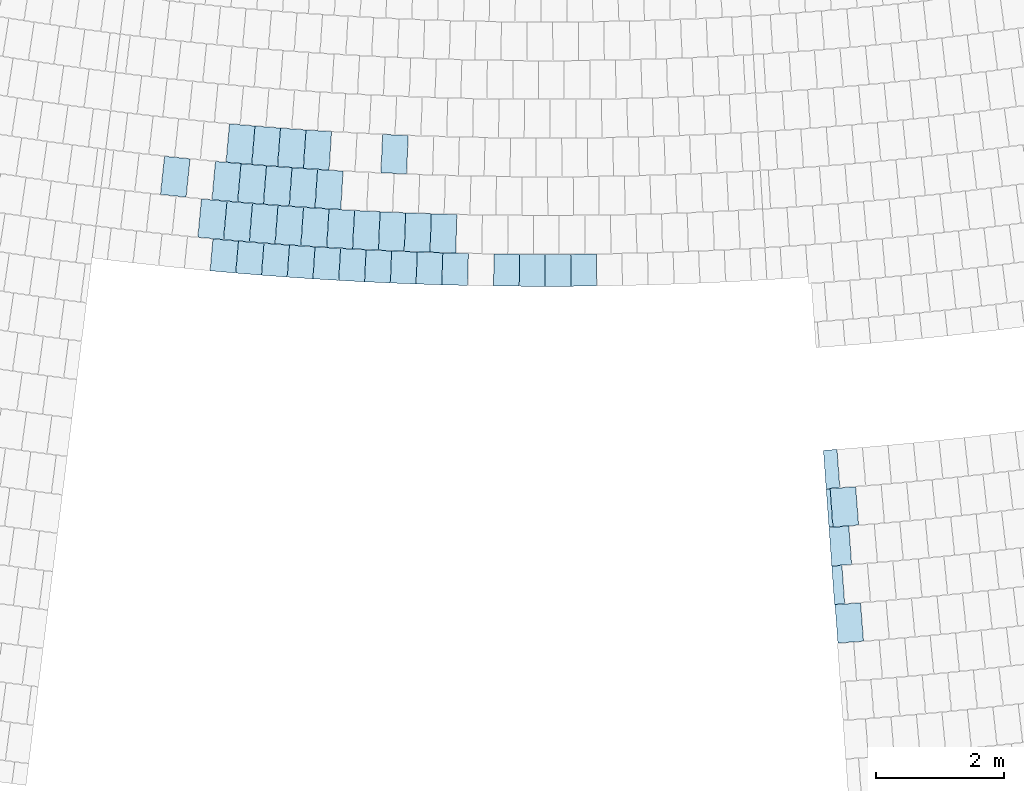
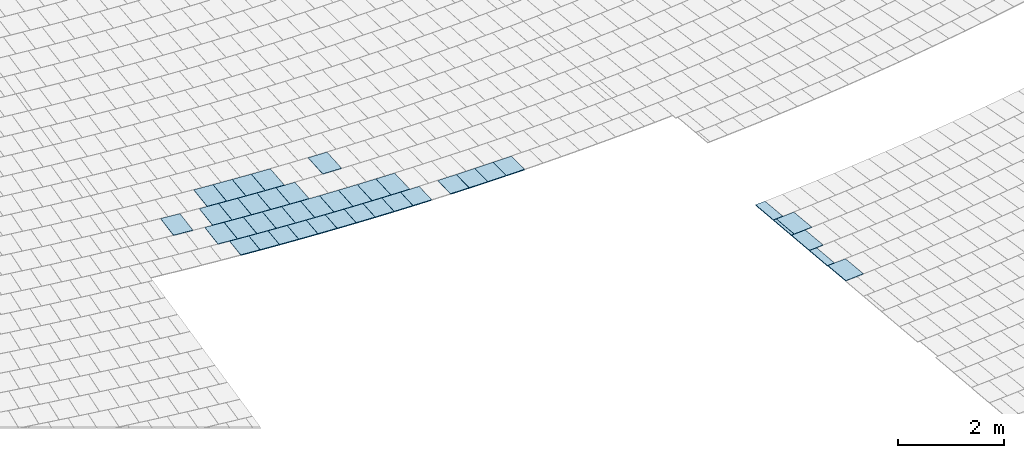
# One storey, part 37 of 438: 41 slabs.
"""IFC2X3 building model written with IfcOpenShell, lengths in millimetres."""

import ifcopenshell
import ifcopenshell.guid

model = None  # the IFC model being written
_history = None  # IfcOwnerHistory: only IFC2X3 demands one
_inside = {}  # id of a spatial element -> (the spatial element, [elements in it])
_under = {}  # id of a project, library or spatial element -> (it, [spatial elements below it])
_declared = {}  # id of a project -> (the project, [libraries it declares])
_typed = {}  # id of a type object -> (the type object, [elements of that type])
_made_of = {}  # id of a material, layer set ... -> (it, [elements and type objects made of it])


def new_model(schema):
    """Start an empty IFC model of exactly this schema.

    Asked for "IFC4X3", IfcOpenShell would pick the latest addendum, in which some entities
    have other attributes; the version numbers below select the first issue.
    IFC2X3 requires an IfcOwnerHistory on every rooted entity: one is made here for all.
    """
    global model, _history
    if schema == "IFC4X3":
        model = ifcopenshell.file(schema_version=(4, 3, 0, 0))
    else:
        model = ifcopenshell.file(schema=schema)
    _inside.clear()
    _under.clear()
    _declared.clear()
    _typed.clear()
    _made_of.clear()
    _history = None
    if model.schema == "IFC2X3":
        org = make("IfcOrganization", Name="unknown")
        user = make(
            "IfcPersonAndOrganization",
            ThePerson=make("IfcPerson", FamilyName="unknown"),
            TheOrganization=org,
        )
        app = make(
            "IfcApplication",
            ApplicationDeveloper=org,
            Version="unknown",
            ApplicationFullName="unknown",
            ApplicationIdentifier="unknown",
        )
        _history = make(
            "IfcOwnerHistory",
            OwningUser=user,
            OwningApplication=app,
            ChangeAction="ADDED",
            CreationDate=0,
        )
    return model


def make(cls, **values):
    """One entity of the class cls with the attributes given. An attribute that is None is left unset."""
    return model.create_entity(
        cls, **{name: value for name, value in values.items() if value is not None}
    )


def entity(cls, *values):
    """Any entity or typed value of the class cls, its attributes in the order of the schema. None: left unset."""
    e = model.create_entity(cls)
    for i, value in enumerate(values):
        if value is not None:
            e[i] = value
    return e


def rooted(cls, **values):
    """An entity with a GlobalId (a new one), such as an element, a storey or a relation."""
    return make(cls, GlobalId=ifcopenshell.guid.new(), OwnerHistory=_history, **values)


def si_unit(unit_type, name, prefix=None):
    """IfcSIUnit, for example si_unit("LENGTHUNIT", "METRE", prefix="MILLI")."""
    return make("IfcSIUnit", UnitType=unit_type, Prefix=prefix, Name=name)


def converted_unit(unit_type, name, factor, base, dimensions=None, offset=None):
    """IfcConversionBasedUnit, such as the inch: factor (a typed value) times the base unit."""
    return make(
        "IfcConversionBasedUnit"
        if offset is None
        else "IfcConversionBasedUnitWithOffset",
        ConversionOffset=offset,
        Dimensions=None
        if dimensions is None
        else entity("IfcDimensionalExponents", *dimensions),
        UnitType=unit_type,
        Name=name,
        ConversionFactor=make(
            "IfcMeasureWithUnit", ValueComponent=factor, UnitComponent=base
        ),
    )


def derived_unit(unit_type, elements):
    """IfcDerivedUnit: a product of units, each with its exponent."""
    return make(
        "IfcDerivedUnit",
        Elements=[
            make("IfcDerivedUnitElement", Unit=unit, Exponent=power)
            for unit, power in elements
        ],
        UnitType=unit_type,
    )


def assignment(units):
    """IfcUnitAssignment: the units of a project."""
    return None if units is None else make("IfcUnitAssignment", Units=units)


def point(xyz):
    """IfcCartesianPoint."""
    return None if xyz is None else make("IfcCartesianPoint", Coordinates=xyz)


def direction(xyz):
    """IfcDirection."""
    return None if xyz is None else make("IfcDirection", DirectionRatios=xyz)


def frame(location, z_axis=None, x_axis=None):
    """IfcAxis2Placement3D, a coordinate frame: its origin and axes. An axis left out is left unset."""
    return make(
        "IfcAxis2Placement3D",
        Location=point(location),
        Axis=direction(z_axis),
        RefDirection=direction(x_axis),
    )


def origin():
    """The frame at (0, 0, 0) with its axes left unset."""
    return frame((0.0, 0.0, 0.0))


def place(relative_to, where):
    """IfcLocalPlacement: puts the frame where relative to a parent placement (None: the world)."""
    return make(
        "IfcLocalPlacement", PlacementRelTo=relative_to, RelativePlacement=where
    )


def context(
    kind, dimensions, precision=None, world=None, true_north=None, identifier=None
):
    """IfcGeometricRepresentationContext, for example the 3D "Model" context."""
    return make(
        "IfcGeometricRepresentationContext",
        ContextIdentifier=identifier,
        ContextType=kind,
        CoordinateSpaceDimension=dimensions,
        Precision=precision,
        WorldCoordinateSystem=world,
        TrueNorth=true_north,
    )


def subcontext(parent, identifier, kind, view, scale=None):
    """IfcGeometricRepresentationSubContext, for example "Body" below "Model"."""
    return make(
        "IfcGeometricRepresentationSubContext",
        ContextIdentifier=identifier,
        ContextType=kind,
        ParentContext=parent,
        TargetScale=scale,
        TargetView=view,
    )


def project(units=None, contexts=None):
    """IfcProject with its units and contexts."""
    return rooted(
        "IfcProject",
        Name="project",
        RepresentationContexts=contexts,
        UnitsInContext=assignment(units),
    )


def spatial(cls, under=None, at=None, **own):
    """A site, building, storey or space (cls), placed at a placement, below another one or the project."""
    s = rooted(cls, ObjectPlacement=at, **own)
    if under is not None:
        _under.setdefault(under.id(), (under, []))[1].append(s)
    return s


def polyline(points):
    """IfcPolyline through the points."""
    return make("IfcPolyline", Points=[point(p) for p in points])


def outline(outer, holes=None, kind="AREA"):
    """IfcArbitraryClosedProfileDef: a profile drawn as a closed curve; with holes, ...WithVoids."""
    if holes is None:
        return make("IfcArbitraryClosedProfileDef", ProfileType=kind, OuterCurve=outer)
    return make(
        "IfcArbitraryProfileDefWithVoids",
        ProfileType=kind,
        OuterCurve=outer,
        InnerCurves=holes,
    )


def extrude(swept, where, along, depth):
    """IfcExtrudedAreaSolid: the profile swept, set in the frame where, extruded along a direction by depth."""
    return make(
        "IfcExtrudedAreaSolid",
        SweptArea=swept,
        Position=where,
        ExtrudedDirection=direction(along),
        Depth=depth,
    )


def shape(context_of_items, identifier, shape_type, items):
    """IfcShapeRepresentation: the items that make up one representation, for example the "Body"."""
    return make(
        "IfcShapeRepresentation",
        ContextOfItems=context_of_items,
        RepresentationIdentifier=identifier,
        RepresentationType=shape_type,
        Items=items,
    )


def material(Name=None, Category=None):
    """IfcMaterial."""
    return make("IfcMaterial", Name=Name, Category=Category)


def layer(
    of_material, thickness, ventilated=None, Name=None, Category=None, Priority=None
):
    """IfcMaterialLayer: one layer of a wall or slab, of a material (None: an air gap)."""
    return make(
        "IfcMaterialLayer",
        Material=of_material,
        LayerThickness=thickness,
        IsVentilated=ventilated,
        Name=Name,
        Category=Category,
        Priority=Priority,
    )


def layer_set(layers, Name=None):
    """IfcMaterialLayerSet."""
    return make("IfcMaterialLayerSet", MaterialLayers=layers, LayerSetName=Name)


def layer_usage(for_layer_set, set_direction, sense, offset, extent=None):
    """IfcMaterialLayerSetUsage: how a layer set lies in its element."""
    return make(
        "IfcMaterialLayerSetUsage",
        ForLayerSet=for_layer_set,
        LayerSetDirection=set_direction,
        DirectionSense=sense,
        OffsetFromReferenceLine=offset,
        ReferenceExtent=extent,
    )


def made_of(thing, what):
    """Note that an element or type object is made of a material, layer set ...; save() writes the relation."""
    if what is not None:
        _made_of.setdefault(what.id(), (what, []))[1].append(thing)
    return thing


def type_object(cls, material=None, **own):
    """A type object (cls), such as IfcWallType, which elements share."""
    return made_of(rooted(cls, **own), material)


def element(
    cls,
    number,
    at=None,
    inside=None,
    cuts=None,
    type_object=None,
    material=None,
    context=None,
    identifier="Body",
    shape_type=None,
    held_by="IfcProductDefinitionShape",
    body=None,
    shapes=None,
    **own,
):
    """One element of the class cls, such as IfcWall. Its Tag is "e" and its number.

    at: its placement. inside: the storey or other place that contains it. cuts: it is an
    opening in that element (IfcRelVoidsElement). A single representation is given by context,
    identifier, shape_type and body (its items); several are given by shapes. held_by: the class
    of the entity that holds the representations. save() writes the other relations.
    """
    e = rooted(cls, Tag="e%d" % number, ObjectPlacement=at, **own)
    if body is not None:
        shapes = [shape(context, identifier, shape_type, body)]
    if shapes is not None:
        e.Representation = make(held_by, Representations=shapes)
    if inside is not None:
        _inside.setdefault(inside.id(), (inside, []))[1].append(e)
    if cuts is not None:
        rooted(
            "IfcRelVoidsElement", RelatingBuildingElement=cuts, RelatedOpeningElement=e
        )
    if type_object is not None:
        _typed.setdefault(type_object.id(), (type_object, []))[1].append(e)
    return made_of(e, material)


def aggregate(whole, parts):
    """IfcRelAggregates: a whole, such as a stair, and the parts it consists of."""
    return rooted("IfcRelAggregates", RelatingObject=whole, RelatedObjects=parts)


def save(model, path):
    """Write the relations noted so far, then the file.

    IfcRelAggregates (storeys below a building ...), IfcRelContainedInSpatialStructure (elements
    in a storey), IfcRelDefinesByType, IfcRelAssociatesMaterial and IfcRelDeclares: one each for
    every whole, place, type object, material and project.
    """
    for whole, parts in _under.values():
        aggregate(whole, parts)
    for where, things in _inside.values():
        rooted(
            "IfcRelContainedInSpatialStructure",
            RelatedElements=things,
            RelatingStructure=where,
        )
    for kind, things in _typed.values():
        rooted("IfcRelDefinesByType", RelatedObjects=things, RelatingType=kind)
    for what, things in _made_of.values():
        rooted("IfcRelAssociatesMaterial", RelatedObjects=things, RelatingMaterial=what)
    for by, libraries in _declared.values():
        rooted("IfcRelDeclares", RelatingContext=by, RelatedDefinitions=libraries)
    model.write(path)


model = new_model("IFC2X3")

# Units and contexts
model_context = context("Model", 3, precision=0.01, world=origin(), true_north=direction((6.123031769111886e-17, 1.0)))
body_context = subcontext(model_context, "Body", "Model", "MODEL_VIEW")
ifc_project = project(units=[si_unit("LENGTHUNIT", "METRE", prefix="MILLI"), si_unit("AREAUNIT", "SQUARE_METRE"), si_unit("VOLUMEUNIT", "CUBIC_METRE"), converted_unit("PLANEANGLEUNIT", "DEGREE", entity("IfcRatioMeasure", 0.017453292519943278), si_unit("PLANEANGLEUNIT", "RADIAN"), dimensions=[0, 0, 0, 0, 0, 0, 0]), si_unit("MASSUNIT", "GRAM", prefix="KILO"), derived_unit("MASSDENSITYUNIT", [(si_unit("MASSUNIT", "GRAM", prefix="KILO"), 1), (si_unit("LENGTHUNIT", "METRE"), -3)]), derived_unit("MOMENTOFINERTIAUNIT", [(si_unit("LENGTHUNIT", "METRE"), 4)]), si_unit("TIMEUNIT", "SECOND"), si_unit("FREQUENCYUNIT", "HERTZ"), si_unit("THERMODYNAMICTEMPERATUREUNIT", "DEGREE_CELSIUS"), derived_unit("THERMALTRANSMITTANCEUNIT", [(si_unit("MASSUNIT", "GRAM", prefix="KILO"), 1), (si_unit("THERMODYNAMICTEMPERATUREUNIT", "KELVIN"), -1), (si_unit("TIMEUNIT", "SECOND"), -3)]), derived_unit("THERMALCONDUCTANCEUNIT", [(si_unit("MASSUNIT", "GRAM", prefix="KILO"), 1), (si_unit("LENGTHUNIT", "METRE"), 1), (si_unit("THERMODYNAMICTEMPERATUREUNIT", "KELVIN"), -1), (si_unit("TIMEUNIT", "SECOND"), -3)]), derived_unit("VOLUMETRICFLOWRATEUNIT", [(si_unit("LENGTHUNIT", "METRE"), 3), (si_unit("TIMEUNIT", "SECOND"), -1)]), derived_unit("MASSFLOWRATEUNIT", [(si_unit("MASSUNIT", "GRAM", prefix="KILO"), 1), (si_unit("TIMEUNIT", "SECOND"), -1)]), derived_unit("ROTATIONALFREQUENCYUNIT", [(si_unit("TIMEUNIT", "SECOND"), -1)]), si_unit("ELECTRICCURRENTUNIT", "AMPERE"), si_unit("ELECTRICVOLTAGEUNIT", "VOLT"), si_unit("POWERUNIT", "WATT"), converted_unit("FORCEUNIT", "KIP", entity("IfcRatioMeasure", 2.088543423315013e-05), si_unit("FORCEUNIT", "NEWTON"), dimensions=[1, 1, -2, 0, 0, 0, 0]), si_unit("ILLUMINANCEUNIT", "LUX"), si_unit("LUMINOUSFLUXUNIT", "LUMEN"), si_unit("LUMINOUSINTENSITYUNIT", "CANDELA"), derived_unit("USERDEFINED", [(si_unit("MASSUNIT", "GRAM", prefix="KILO"), -1), (si_unit("LENGTHUNIT", "METRE"), -2), (si_unit("TIMEUNIT", "SECOND"), 3), (si_unit("LUMINOUSFLUXUNIT", "LUMEN"), 1)]), derived_unit("USERDEFINED", [(si_unit("MASSUNIT", "GRAM", prefix="KILO"), 1), (si_unit("LENGTHUNIT", "METRE"), 3), (si_unit("TIMEUNIT", "SECOND"), -3), (si_unit("ELECTRICCURRENTUNIT", "AMPERE"), -2)]), derived_unit("USERDEFINED", [(si_unit("LENGTHUNIT", "METRE"), 2), (si_unit("TIMEUNIT", "SECOND"), -2)]), derived_unit("SOUNDPOWERUNIT", [(si_unit("MASSUNIT", "GRAM", prefix="KILO"), 1), (si_unit("LENGTHUNIT", "METRE"), 2), (si_unit("TIMEUNIT", "SECOND"), -3)]), derived_unit("SOUNDPRESSUREUNIT", [(si_unit("MASSUNIT", "GRAM", prefix="KILO"), 1), (si_unit("LENGTHUNIT", "METRE"), -1), (si_unit("TIMEUNIT", "SECOND"), -2)]), derived_unit("LINEARVELOCITYUNIT", [(si_unit("LENGTHUNIT", "METRE"), 1), (si_unit("TIMEUNIT", "SECOND"), -1)]), si_unit("PRESSUREUNIT", "PASCAL"), derived_unit("USERDEFINED", [(si_unit("LENGTHUNIT", "METRE"), -2), (si_unit("MASSUNIT", "GRAM", prefix="KILO"), 1), (si_unit("TIMEUNIT", "SECOND"), -2)]), derived_unit("LINEARFORCEUNIT", [(si_unit("MASSUNIT", "GRAM", prefix="KILO"), 1), (si_unit("LENGTHUNIT", "METRE"), 1), (si_unit("TIMEUNIT", "SECOND"), -2), (si_unit("LENGTHUNIT", "METRE"), -1)]), derived_unit("PLANARFORCEUNIT", [(si_unit("MASSUNIT", "GRAM", prefix="KILO"), 1), (si_unit("LENGTHUNIT", "METRE"), 1), (si_unit("TIMEUNIT", "SECOND"), -2), (si_unit("LENGTHUNIT", "METRE"), -2)]), derived_unit("SPECIFICHEATCAPACITYUNIT", [(si_unit("LENGTHUNIT", "METRE"), 2), (si_unit("TIMEUNIT", "SECOND"), -2), (si_unit("THERMODYNAMICTEMPERATUREUNIT", "KELVIN"), -1)]), derived_unit("VAPORPERMEABILITYUNIT", [(si_unit("TIMEUNIT", "SECOND"), 1), (si_unit("LENGTHUNIT", "METRE"), -1)]), derived_unit("DYNAMICVISCOSITYUNIT", [(si_unit("MASSUNIT", "GRAM", prefix="KILO"), 1), (si_unit("LENGTHUNIT", "METRE"), -1), (si_unit("TIMEUNIT", "SECOND"), -1)]), derived_unit("THERMALEXPANSIONCOEFFICIENTUNIT", [(si_unit("THERMODYNAMICTEMPERATUREUNIT", "KELVIN"), -1)])], contexts=[model_context])

# Site, building, storey
site_placement = place(None, frame((0.0, 0.0, 0.0), z_axis=(0.0, 0.0, 1.0), x_axis=(0.8191520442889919, 0.5735764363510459, 0.0)))
site = spatial("IfcSite", under=ifc_project, at=site_placement, Name="Default", CompositionType="ELEMENT")
building_placement = place(site_placement, origin())
building = spatial("IfcBuilding", under=site, at=building_placement, CompositionType="ELEMENT")
storey_placement = place(building_placement, origin())
storey = spatial("IfcBuildingStorey", under=building, at=storey_placement, Name="PLAN", CompositionType="ELEMENT", Elevation=0.0)

# Slabs
ifc_material = material(Name="Paint-01")
ifc_layer = layer(ifc_material, 20.00000000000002)
ifc_layer_set = layer_set([ifc_layer], Name="Floor:Slab-179:1000")
ifc_layer_usage = layer_usage(ifc_layer_set, "AXIS3", "POSITIVE", 0.0)
slab_type = type_object("IfcSlabType", Name="Floor:Slab-179:1000", PredefinedType="FLOOR", material=ifc_layer_set)
slab_1_placement = place(storey_placement, origin())
element("IfcSlab", 1, at=slab_1_placement, inside=storey, type_object=slab_type, material=ifc_layer_usage, Name="Floor:Slab-179:1000", ObjectType="Floor:Slab-179:1000", PredefinedType="FLOOR", context=body_context, shape_type="SweptSolid", body=[
    extrude(outline(polyline([(-300.0000010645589, -200.000002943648), (299.99999893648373, -200.000002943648), (300.00000106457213, 200.00000294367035), (-299.9999989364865, 200.00000294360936), (-300.0000010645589, -200.000002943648)])), frame((-71296.15051540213, -120277.94097006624, 20.0), z_axis=(0.0, 0.0, -1.0), x_axis=(-0.509357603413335, -0.8605549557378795, 0.0)), (0.0, 0.0, 1.0), 20.00000000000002),
])
slab_2_placement = place(storey_placement, origin())
element("IfcSlab", 2, at=slab_2_placement, inside=storey, type_object=slab_type, material=ifc_layer_usage, Name="Floor:Slab-179:1000", ObjectType="Floor:Slab-179:1000", PredefinedType="FLOOR", context=body_context, shape_type="SweptSolid", body=[
    extrude(outline(polyline([(-300.0, -200.00000294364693), (299.9999976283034, -200.000002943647), (300.0, 200.00000294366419), (-299.9999976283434, 200.00000294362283), (-300.0, -200.00000294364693)])), frame((-74297.9948022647, -112940.30427513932, 520.0), z_axis=(0.0, 0.0, -1.0), x_axis=(-0.6026229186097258, -0.7980260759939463, 0.0)), (0.0, 0.0, 1.0), 20.000000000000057),
])
slab_3_placement = place(storey_placement, origin())
element("IfcSlab", 3, at=slab_3_placement, inside=storey, type_object=slab_type, material=ifc_layer_usage, Name="Floor:Slab-179:1000", ObjectType="Floor:Slab-179:1000", PredefinedType="FLOOR", context=body_context, shape_type="SweptSolid", body=[
    extrude(outline(polyline([(-250.0, -200.00000294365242), (249.99999762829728, -200.0000029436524), (250.0, 200.0000029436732), (-249.99999762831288, 200.0000029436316), (-250.0, -200.00000294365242)])), frame((-74470.19479156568, -113505.28114272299, 520.0), z_axis=(0.0, 0.0, -1.0), x_axis=(-0.599773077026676, -0.800170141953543, 0.0)), (0.0, 0.0, 1.0), 20.000000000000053),
])
slab_4_placement = place(storey_placement, origin())
element("IfcSlab", 4, at=slab_4_placement, inside=storey, type_object=slab_type, material=ifc_layer_usage, Name="Floor:Slab-179:1000", ObjectType="Floor:Slab-179:1000", PredefinedType="FLOOR", context=body_context, shape_type="SweptSolid", body=[
    extrude(outline(polyline([(-300.0, -200.00000294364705), (299.99999762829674, -200.00000294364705), (300.0, 200.00000294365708), (-299.99999762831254, 200.0000029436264), (-300.0, -200.00000294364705)])), frame((-73892.33232357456, -111728.51901425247, 520.0), z_axis=(0.0, 0.0, -1.0), x_axis=(-0.6084868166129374, -0.7935639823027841, 0.0)), (0.0, 0.0, 1.0), 20.000000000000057),
])
slab_5_placement = place(storey_placement, origin())
element("IfcSlab", 5, at=slab_5_placement, inside=storey, type_object=slab_type, material=ifc_layer_usage, Name="Floor:Slab-179:1000", ObjectType="Floor:Slab-179:1000", PredefinedType="FLOOR", context=body_context, shape_type="SweptSolid", body=[
    extrude(outline(polyline([(-300.0, -200.0000029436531), (299.9999976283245, -200.0000029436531), (300.0, 200.00000294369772), (-299.9999976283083, 200.00000294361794), (-300.0, -200.0000029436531)])), frame((-74841.70731393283, -110983.93482851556, 520.0), z_axis=(0.0, 0.0, -1.0), x_axis=(-0.6256949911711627, -0.7800678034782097, 0.0)), (0.0, 0.0, 1.0), 20.000000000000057),
])
slab_6_placement = place(storey_placement, origin())
element("IfcSlab", 6, at=slab_6_placement, inside=storey, type_object=slab_type, material=ifc_layer_usage, Name="Floor:Slab-179:1000", ObjectType="Floor:Slab-179:1000", PredefinedType="FLOOR", context=body_context, shape_type="SweptSolid", body=[
    extrude(outline(polyline([(-300.0, -200.0000029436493), (299.99999762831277, -200.0000029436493), (300.0, 200.000002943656), (-299.9999976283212, 200.00000294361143), (-300.0, -200.0000029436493)])), frame((-75154.51903661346, -110731.14824908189, 520.0), z_axis=(0.0, 0.0, -1.0), x_axis=(-0.6313649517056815, -0.7754858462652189, 0.0)), (0.0, 0.0, 1.0), 19.999999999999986),
])
slab_7_placement = place(storey_placement, origin())
element("IfcSlab", 7, at=slab_7_placement, inside=storey, type_object=slab_type, material=ifc_layer_usage, Name="Floor:Slab-179:1000", ObjectType="Floor:Slab-179:1000", PredefinedType="FLOOR", context=body_context, shape_type="SweptSolid", body=[
    extrude(outline(polyline([(-300.0, -200.00000294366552), (299.9999976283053, -200.00000294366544), (300.0, 200.00000294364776), (-299.9999976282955, 200.00000294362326), (-300.0, -200.00000294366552)])), frame((-75774.57268379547, -110218.76773324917, 520.0), z_axis=(0.0, 0.0, -1.0), x_axis=(-0.6426039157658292, -0.7661985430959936, 0.0)), (0.0, 0.0, 1.0), 19.99999999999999),
])
slab_8_placement = place(storey_placement, origin())
element("IfcSlab", 8, at=slab_8_placement, inside=storey, type_object=slab_type, material=ifc_layer_usage, Name="Floor:Slab-179:1000", ObjectType="Floor:Slab-179:1000", PredefinedType="FLOOR", context=body_context, shape_type="SweptSolid", body=[
    extrude(outline(polyline([(-300.0, -200.00000294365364), (299.9999976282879, -200.00000294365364), (300.0, 200.00000294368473), (-299.99999762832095, 200.00000294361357), (-300.0, -200.00000294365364)])), frame((-75465.47966833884, -110476.08803245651, 520.0), z_axis=(0.0, 0.0, -1.0), x_axis=(-0.637001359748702, -0.7708626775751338, 0.0)), (0.0, 0.0, 1.0), 19.99999999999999),
])
slab_9_placement = place(storey_placement, origin())
element("IfcSlab", 9, at=slab_9_placement, inside=storey, type_object=slab_type, material=ifc_layer_usage, Name="Floor:Slab-179:1000", ObjectType="Floor:Slab-179:1000", PredefinedType="FLOOR", context=body_context, shape_type="SweptSolid", body=[
    extrude(outline(polyline([(-300.0, -200.00000294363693), (299.99999762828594, -200.00000294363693), (300.0, 200.0000029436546), (-299.9999976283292, 200.0000029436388), (-300.0, -200.00000294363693)])), frame((-75673.34043567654, -111088.54287768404, 520.0), z_axis=(0.0, 0.0, -1.0), x_axis=(-0.6338184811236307, -0.7734818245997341, 0.0)), (0.0, 0.0, 1.0), 20.000000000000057),
])
slab_10_placement = place(storey_placement, origin())
element("IfcSlab", 10, at=slab_10_placement, inside=storey, type_object=slab_type, material=ifc_layer_usage, Name="Floor:Slab-179:1000", ObjectType="Floor:Slab-179:1000", PredefinedType="FLOOR", context=body_context, shape_type="SweptSolid", body=[
    extrude(outline(polyline([(-300.0, -200.00000294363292), (299.9999976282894, -200.0000029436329), (300.0, 200.00000294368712), (-299.99999762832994, 200.00000294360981), (-300.0, -200.00000294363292)])), frame((-75047.55715957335, -111593.83412720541, 520.0), z_axis=(0.0, 0.0, -1.0), x_axis=(-0.6225987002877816, -0.7825412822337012, 0.0)), (0.0, 0.0, 1.0), 19.99999999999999),
])
slab_11_placement = place(storey_placement, origin())
element("IfcSlab", 11, at=slab_11_placement, inside=storey, type_object=slab_type, material=ifc_layer_usage, Name="Floor:Slab-179:1000", ObjectType="Floor:Slab-179:1000", PredefinedType="FLOOR", context=body_context, shape_type="SweptSolid", body=[
    extrude(outline(polyline([(-300.0, -200.00000294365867), (299.9999976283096, -200.00000294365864), (300.0, 200.0000029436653), (-299.99999762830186, 200.00000294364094), (-300.0, -200.00000294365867)])), frame((-75983.48331888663, -110832.52630987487, 520.0), z_axis=(0.0, 0.0, -1.0), x_axis=(-0.639379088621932, -0.7688916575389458, 0.0)), (0.0, 0.0, 1.0), 19.99999999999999),
])
slab_12_placement = place(storey_placement, origin())
element("IfcSlab", 12, at=slab_12_placement, inside=storey, type_object=slab_type, material=ifc_layer_usage, Name="Floor:Slab-179:1000", ObjectType="Floor:Slab-179:1000", PredefinedType="FLOOR", context=body_context, shape_type="SweptSolid", body=[
    extrude(outline(polyline([(-300.0, -200.0000029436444), (299.99999762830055, -200.00000294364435), (300.0, 200.00000294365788), (-299.99999762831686, 200.0000029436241), (-300.0, -200.0000029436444)])), frame((-75361.35964261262, -111342.31654802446, 520.0), z_axis=(0.0, 0.0, -1.0), x_axis=(-0.6282249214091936, -0.778031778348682, 0.0)), (0.0, 0.0, 1.0), 20.000000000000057),
])
slab_13_placement = place(storey_placement, origin())
element("IfcSlab", 13, at=slab_13_placement, inside=storey, type_object=slab_type, material=ifc_layer_usage, Name="Floor:Slab-179:1000", ObjectType="Floor:Slab-179:1000", PredefinedType="FLOOR", context=body_context, shape_type="SweptSolid", body=[
    extrude(outline(polyline([(-300.0, -200.0000029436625), (299.99999762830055, -200.00000294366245), (300.0, 200.00000294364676), (-299.9999976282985, 200.00000294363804), (-300.0, -200.0000029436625)])), frame((-76291.7721679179, -110574.2801548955, 520.0), z_axis=(0.0, 0.0, -1.0), x_axis=(-0.6449064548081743, -0.7642615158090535, 0.0)), (0.0, 0.0, 1.0), 20.000000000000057),
])
slab_14_placement = place(storey_placement, origin())
element("IfcSlab", 14, at=slab_14_placement, inside=storey, type_object=slab_type, material=ifc_layer_usage, Name="Floor:Slab-179:1000", ObjectType="Floor:Slab-179:1000", PredefinedType="FLOOR", context=body_context, shape_type="SweptSolid", body=[
    extrude(outline(polyline([(-200.00000134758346, -299.99999869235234), (200.00000453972, -299.99999869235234), (200.00000134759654, 299.99999869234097), (-200.0000045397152, 299.99999869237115), (-200.00000134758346, -299.99999869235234)])), frame((-76902.72374893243, -110051.15290350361, 520.0), z_axis=(0.0, 0.0, -1.0), x_axis=(0.7548822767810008, -0.6558603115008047, 0.0)), (0.0, 0.0, 1.0), 20.000000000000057),
])
slab_15_placement = place(storey_placement, origin())
element("IfcSlab", 15, at=slab_15_placement, inside=storey, type_object=slab_type, material=ifc_layer_usage, Name="Floor:Slab-179:1000", ObjectType="Floor:Slab-179:1000", PredefinedType="FLOOR", context=body_context, shape_type="SweptSolid", body=[
    extrude(outline(polyline([(-300.0, -200.00000294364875), (299.9999976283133, -200.00000294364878), (300.0, 200.00000294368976), (-299.99999762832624, 200.00000294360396), (-300.0, -200.00000294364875)])), frame((-74936.34946143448, -112451.06755359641, 520.0), z_axis=(0.0, 0.0, -1.0), x_axis=(-0.6139452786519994, -0.7893485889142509, 0.0)), (0.0, 0.0, 1.0), 20.000000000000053),
])
slab_16_placement = place(storey_placement, origin())
element("IfcSlab", 16, at=slab_16_placement, inside=storey, type_object=slab_type, material=ifc_layer_usage, Name="Floor:Slab-179:1000", ObjectType="Floor:Slab-179:1000", PredefinedType="FLOOR", context=body_context, shape_type="SweptSolid", body=[
    extrude(outline(polyline([(-300.0, -200.00000294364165), (299.9999976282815, -200.00000294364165), (300.0, 200.00000294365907), (-299.9999976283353, 200.00000294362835), (-300.0, -200.00000294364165)])), frame((-74618.04452259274, -112696.82420728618, 520.0), z_axis=(0.0, 0.0, -1.0), x_axis=(-0.6082995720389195, -0.7937075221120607, 0.0)), (0.0, 0.0, 1.0), 20.000000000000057),
])
slab_17_placement = place(storey_placement, origin())
element("IfcSlab", 17, at=slab_17_placement, inside=storey, type_object=slab_type, material=ifc_layer_usage, Name="Floor:Slab-179:1000", ObjectType="Floor:Slab-179:1000", PredefinedType="FLOOR", context=body_context, shape_type="SweptSolid", body=[
    extrude(outline(polyline([(-300.0, -200.0000029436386), (299.99999762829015, -200.00000294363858), (300.0, 200.00000294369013), (-299.9999976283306, 200.00000294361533), (-300.0, -200.0000029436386)])), frame((-75252.89342524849, -112203.04681676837, 520.0), z_axis=(0.0, 0.0, -1.0), x_axis=(-0.6195597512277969, -0.7849494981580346, 0.0)), (0.0, 0.0, 1.0), 20.000000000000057),
])
slab_18_placement = place(storey_placement, origin())
element("IfcSlab", 18, at=slab_18_placement, inside=storey, type_object=slab_type, material=ifc_layer_usage, Name="Floor:Slab-179:1000", ObjectType="Floor:Slab-179:1000", PredefinedType="FLOOR", context=body_context, shape_type="SweptSolid", body=[
    extrude(outline(polyline([(-300.0, -200.00000294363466), (299.99999762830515, -200.00000294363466), (300.0, 200.0000029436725), (-299.9999976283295, 200.00000294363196), (-300.0, -200.00000294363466)])), frame((-75567.66031008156, -111952.77461468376, 520.0), z_axis=(0.0, 0.0, -1.0), x_axis=(-0.6251427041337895, -0.7805104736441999, 0.0)), (0.0, 0.0, 1.0), 19.99999999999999),
])
slab_19_placement = place(storey_placement, origin())
element("IfcSlab", 19, at=slab_19_placement, inside=storey, type_object=slab_type, material=ifc_layer_usage, Name="Floor:Slab-179:1000", ObjectType="Floor:Slab-179:1000", PredefinedType="FLOOR", context=body_context, shape_type="SweptSolid", body=[
    extrude(outline(polyline([(-300.0, -200.0000029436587), (299.9999976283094, -200.0000029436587), (300.0, 200.00000294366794), (-299.9999976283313, 200.0000029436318), (-300.0, -200.0000029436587)])), frame((-75880.63410238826, -111700.26367976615, 520.0), z_axis=(0.0, 0.0, -1.0), x_axis=(-0.6306938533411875, -0.7760317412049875, 0.0)), (0.0, 0.0, 1.0), 20.000000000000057),
])
slab_20_placement = place(storey_placement, origin())
element("IfcSlab", 20, at=slab_20_placement, inside=storey, type_object=slab_type, material=ifc_layer_usage, Name="Floor:Slab-179:1000", ObjectType="Floor:Slab-179:1000", PredefinedType="FLOOR", context=body_context, shape_type="SweptSolid", body=[
    extrude(outline(polyline([(-300.0, -200.0000029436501), (299.99999762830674, -200.00000294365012), (300.0, 200.0000029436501), (-299.99999762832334, 200.00000294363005), (-300.0, -200.0000029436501)])), frame((-76191.79887984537, -111445.52685833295, 520.0), z_axis=(0.0, 0.0, -1.0), x_axis=(-0.6362129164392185, -0.7715135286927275, 0.0)), (0.0, 0.0, 1.0), 20.000000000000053),
])
slab_21_placement = place(storey_placement, origin())
element("IfcSlab", 21, at=slab_21_placement, inside=storey, type_object=slab_type, material=ifc_layer_usage, Name="Floor:Slab-179:1000", ObjectType="Floor:Slab-179:1000", PredefinedType="FLOOR", context=body_context, shape_type="SweptSolid", body=[
    extrude(outline(polyline([(-300.0, -200.00000294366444), (299.99999762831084, -200.00000294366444), (300.0, 200.00000294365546), (-299.9999976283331, 200.00000294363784), (-300.0, -200.00000294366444)])), frame((-76501.13881216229, -111188.57710994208, 520.0), z_axis=(0.0, 0.0, -1.0), x_axis=(-0.6416996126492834, -0.7669560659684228, 0.0)), (0.0, 0.0, 1.0), 20.000000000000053),
])
slab_22_placement = place(storey_placement, origin())
element("IfcSlab", 22, at=slab_22_placement, inside=storey, type_object=slab_type, material=ifc_layer_usage, Name="Floor:Slab-179:1000", ObjectType="Floor:Slab-179:1000", PredefinedType="FLOOR", context=body_context, shape_type="SweptSolid", body=[
    extrude(outline(polyline([(-300.0, -200.0000029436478), (299.99999762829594, -200.00000294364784), (300.0, 200.0000029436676), (-299.9999976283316, 200.0000029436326), (-300.0, -200.0000029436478)])), frame((-76808.63816188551, -110929.4275067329, 520.0), z_axis=(0.0, 0.0, -1.0), x_axis=(-0.6471536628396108, -0.7623595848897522, 0.0)), (0.0, 0.0, 1.0), 20.000000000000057),
])
slab_23_placement = place(storey_placement, origin())
element("IfcSlab", 23, at=slab_23_placement, inside=storey, type_object=slab_type, material=ifc_layer_usage, Name="Floor:Slab-179:1000", ObjectType="Floor:Slab-179:1000", PredefinedType="FLOOR", context=body_context, shape_type="SweptSolid", body=[
    extrude(outline(polyline([(-250.0, -200.0000029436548), (249.99999762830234, -200.00000294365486), (250.0, 200.0000029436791), (-249.999997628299, 200.0000029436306), (-250.0, -200.0000029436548)])), frame((-74790.82027213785, -113263.18257424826, 520.0), z_axis=(0.0, 0.0, -1.0), x_axis=(-0.605404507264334, -0.7959179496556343, 0.0)), (0.0, 0.0, 1.0), 20.000000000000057),
])
slab_24_placement = place(storey_placement, origin())
element("IfcSlab", 24, at=slab_24_placement, inside=storey, type_object=slab_type, material=ifc_layer_usage, Name="Floor:Slab-179:1000", ObjectType="Floor:Slab-179:1000", PredefinedType="FLOOR", context=body_context, shape_type="SweptSolid", body=[
    extrude(outline(polyline([(-299.99999762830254, -200.00000294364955), (300.0, -200.00000294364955), (299.99999762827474, 200.0000029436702), (-300.0, 200.0000029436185), (-299.99999762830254, -200.00000294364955)])), frame((-73976.2165827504, -113181.49537028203, 520.0), z_axis=(0.0, 0.0, -1.0), x_axis=(-0.5969156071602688, -0.8023040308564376, 0.0)), (0.0, 0.0, 1.0), 20.000000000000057),
])
slab_25_placement = place(storey_placement, origin())
element("IfcSlab", 25, at=slab_25_placement, inside=storey, type_object=slab_type, material=ifc_layer_usage, Name="Floor:Slab-179:1000", ObjectType="Floor:Slab-179:1000", PredefinedType="FLOOR", context=body_context, shape_type="SweptSolid", body=[
    extrude(outline(polyline([(-200.00000161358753, -249.99999869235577), (200.00000427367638, -249.99999869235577), (200.00000161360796, 249.99999869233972), (-200.0000042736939, 249.99999869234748), (-200.00000161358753, -249.99999869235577)])), frame((-75426.90633420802, -112772.22825168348, 520.0), z_axis=(0.0, 0.0, -1.0), x_axis=(0.7872948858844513, -0.6165766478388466, 0.0)), (0.0, 0.0, 1.0), 19.999999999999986),
])
slab_26_placement = place(storey_placement, origin())
element("IfcSlab", 26, at=slab_26_placement, inside=storey, type_object=slab_type, material=ifc_layer_usage, Name="Floor:Slab-179:1000", ObjectType="Floor:Slab-179:1000", PredefinedType="FLOOR", context=body_context, shape_type="SweptSolid", body=[
    extrude(outline(polyline([(-200.00000161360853, -249.9999986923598), (200.0000042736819, -249.99999869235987), (200.0000016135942, 249.99999869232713), (-200.0000042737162, 249.99999869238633), (-200.00000161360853, -249.9999986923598)])), frame((-75109.72941295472, -113018.82755475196, 520.0), z_axis=(0.0, 0.0, -1.0), x_axis=(0.7916261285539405, -0.6110057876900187, 0.0)), (0.0, 0.0, 1.0), 20.000000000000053),
])
slab_27_placement = place(storey_placement, origin())
element("IfcSlab", 27, at=slab_27_placement, inside=storey, type_object=slab_type, material=ifc_layer_usage, Name="Floor:Slab-179:1000", ObjectType="Floor:Slab-179:1000", PredefinedType="FLOOR", context=body_context, shape_type="SweptSolid", body=[
    extrude(outline(polyline([(-200.00000161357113, -249.9999986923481), (200.00000427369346, -249.99999869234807), (200.00000161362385, 249.9999986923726), (-200.00000427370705, 249.99999869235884), (-200.00000161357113, -249.9999986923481)])), frame((-75742.3352423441, -112523.39694424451, 520.0), z_axis=(0.0, 0.0, -1.0), x_axis=(0.7829244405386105, -0.6221168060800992, 0.0)), (0.0, 0.0, 1.0), 19.99999999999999),
])
slab_28_placement = place(storey_placement, origin())
element("IfcSlab", 28, at=slab_28_placement, inside=storey, type_object=slab_type, material=ifc_layer_usage, Name="Floor:Slab-179:1000", ObjectType="Floor:Slab-179:1000", PredefinedType="FLOOR", context=body_context, shape_type="SweptSolid", body=[
    extrude(outline(polyline([(-200.0000016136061, -249.99999869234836), (200.00000427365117, -249.99999869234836), (200.00000161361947, 249.99999869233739), (-200.00000427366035, 249.9999986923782), (-200.0000016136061, -249.99999869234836)])), frame((-76367.88628103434, -112019.08798814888, 520.0), z_axis=(0.0, 0.0, -1.0), x_axis=(0.7740668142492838, -0.6331039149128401, 0.0)), (0.0, 0.0, 1.0), 20.000000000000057),
])
slab_29_placement = place(storey_placement, origin())
element("IfcSlab", 29, at=slab_29_placement, inside=storey, type_object=slab_type, material=ifc_layer_usage, Name="Floor:Slab-179:1000", ObjectType="Floor:Slab-179:1000", PredefinedType="FLOOR", context=body_context, shape_type="SweptSolid", body=[
    extrude(outline(polyline([(-200.00000161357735, -249.99999869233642), (200.00000427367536, -249.99999869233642), (200.00000161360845, 249.99999869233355), (-200.00000427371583, 249.99999869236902), (-200.00000161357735, -249.99999869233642)])), frame((-76056.00043084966, -112272.34602277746, 520.0), z_axis=(0.0, 0.0, -1.0), x_axis=(0.7785150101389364, -0.6276259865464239, 0.0)), (0.0, 0.0, 1.0), 20.000000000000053),
])
slab_30_placement = place(storey_placement, origin())
element("IfcSlab", 30, at=slab_30_placement, inside=storey, type_object=slab_type, material=ifc_layer_usage, Name="Floor:Slab-179:1000", ObjectType="Floor:Slab-179:1000", PredefinedType="FLOOR", context=body_context, shape_type="SweptSolid", body=[
    extrude(outline(polyline([(-200.00000161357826, -249.99999869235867), (200.00000427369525, -249.99999869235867), (200.0000016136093, 249.99999869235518), (-200.00000427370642, 249.99999869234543), (-200.00000161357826, -249.99999869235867)])), frame((-76986.25793545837, -111506.00113174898, 520.0), z_axis=(0.0, 0.0, -1.0), x_axis=(0.7650550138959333, -0.6439649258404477, 0.0)), (0.0, 0.0, 1.0), 19.99999999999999),
])
slab_31_placement = place(storey_placement, origin())
element("IfcSlab", 31, at=slab_31_placement, inside=storey, type_object=slab_type, material=ifc_layer_usage, Name="Floor:Slab-179:1000", ObjectType="Floor:Slab-179:1000", PredefinedType="FLOOR", context=body_context, shape_type="SweptSolid", body=[
    extrude(outline(polyline([(-200.00000161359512, -249.9999986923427), (200.0000042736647, -249.99999869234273), (200.0000016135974, 249.99999869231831), (-200.00000427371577, 249.9999986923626), (-200.00000161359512, -249.9999986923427)])), frame((-76677.97726280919, -111763.63545112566, 520.0), z_axis=(0.0, 0.0, -1.0), x_axis=(0.7695800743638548, -0.6385503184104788, 0.0)), (0.0, 0.0, 1.0), 19.999999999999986),
])
slab_32_placement = place(storey_placement, origin())
element("IfcSlab", 32, at=slab_32_placement, inside=storey, type_object=slab_type, material=ifc_layer_usage, Name="Floor:Slab-179:1000", ObjectType="Floor:Slab-179:1000", PredefinedType="FLOOR", context=body_context, shape_type="SweptSolid", body=[
    extrude(outline(polyline([(-249.99999762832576, -200.00000294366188), (250.0, -200.00000294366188), (249.99999762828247, 200.00000294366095), (-250.0, 200.00000294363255), (-249.99999762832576, -200.00000294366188)])), frame((-73498.18038658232, -114217.91815648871, 520.0), z_axis=(0.0, 0.0, -1.0), x_axis=(-0.5827007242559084, -0.8126868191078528, 0.0)), (0.0, 0.0, 1.0), 20.000000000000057),
])
slab_33_placement = place(storey_placement, origin())
element("IfcSlab", 33, at=slab_33_placement, inside=storey, type_object=slab_type, material=ifc_layer_usage, Name="Floor:Slab-179:1000", ObjectType="Floor:Slab-179:1000", PredefinedType="FLOOR", context=body_context, shape_type="SweptSolid", body=[
    extrude(outline(polyline([(-249.99999762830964, -200.0000029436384), (250.0, -200.0000029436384), (249.9999976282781, 200.00000294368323), (-250.0, 200.00000294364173), (-249.99999762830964, -200.0000029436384)])), frame((-74147.86893651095, -113745.1112050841, 520.0), z_axis=(0.0, 0.0, -1.0), x_axis=(-0.5941117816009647, -0.8043824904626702, 0.0)), (0.0, 0.0, 1.0), 20.000000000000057),
])
slab_34_placement = place(storey_placement, origin())
element("IfcSlab", 34, at=slab_34_placement, inside=storey, type_object=slab_type, material=ifc_layer_usage, Name="Floor:Slab-179:1000", ObjectType="Floor:Slab-179:1000", PredefinedType="FLOOR", context=body_context, shape_type="SweptSolid", body=[
    extrude(outline(polyline([(-249.999997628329, -200.00000294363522), (250.0, -200.00000294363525), (249.99999762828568, 200.000002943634), (-250.0, 200.00000294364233), (-249.999997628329, -200.00000294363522)])), frame((-73170.8500423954, -114450.87150251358, 520.0), z_axis=(0.0, 0.0, -1.0), x_axis=(-0.5769515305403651, -0.8167783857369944, 0.0)), (0.0, 0.0, 1.0), 20.000000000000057),
])
slab_35_placement = place(storey_placement, origin())
element("IfcSlab", 35, at=slab_35_placement, inside=storey, type_object=slab_type, material=ifc_layer_usage, Name="Floor:Slab-179:1000", ObjectType="Floor:Slab-179:1000", PredefinedType="FLOOR", context=body_context, shape_type="SweptSolid", body=[
    extrude(outline(polyline([(-249.99999762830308, -200.00000294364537), (250.0, -200.0000029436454), (249.99999762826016, 200.00000294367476), (-250.0, 200.0000029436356), (-249.99999762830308, -200.00000294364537)])), frame((-72511.29871043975, -114909.81993722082, 520.0), z_axis=(0.0, 0.0, -1.0), x_axis=(-0.5653672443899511, -0.8248393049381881, 0.0)), (0.0, 0.0, 1.0), 20.000000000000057),
])
slab_36_placement = place(storey_placement, origin())
element("IfcSlab", 36, at=slab_36_placement, inside=storey, type_object=slab_type, material=ifc_layer_usage, Name="Floor:Slab-179:1000", ObjectType="Floor:Slab-179:1000", PredefinedType="FLOOR", context=body_context, shape_type="SweptSolid", body=[
    extrude(outline(polyline([(-249.99999762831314, -200.00000294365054), (250.0, -200.0000029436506), (249.9999976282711, 200.00000294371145), (-250.0, 200.0000029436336), (-249.99999762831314, -200.00000294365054)])), frame((-72841.8840234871, -114681.50925756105, 520.0), z_axis=(0.0, 0.0, -1.0), x_axis=(-0.5711736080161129, -0.8208292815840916, 0.0)), (0.0, 0.0, 1.0), 20.000000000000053),
])
slab_37_placement = place(storey_placement, origin())
element("IfcSlab", 37, at=slab_37_placement, inside=storey, type_object=slab_type, material=ifc_layer_usage, Name="Floor:Slab-179:1000", ObjectType="Floor:Slab-179:1000", PredefinedType="FLOOR", context=body_context, shape_type="SweptSolid", body=[
    extrude(outline(polyline([(-300.00000106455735, -200.0000029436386), (299.99999893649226, -200.0000029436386), (300.0000010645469, 200.00000294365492), (-299.9999989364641, 200.00000294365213), (-300.00000106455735, -200.0000029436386)])), frame((-72274.25038226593, -121808.07728125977, 20.0), z_axis=(0.0, 0.0, -1.0), x_axis=(-0.5102137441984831, -0.8600476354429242, 0.0)), (0.0, 0.0, 1.0), 20.000000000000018),
])
slab_38_placement = place(storey_placement, origin())
element("IfcSlab", 38, at=slab_38_placement, inside=storey, type_object=slab_type, material=ifc_layer_usage, Name="Floor:Slab-179:1000", ObjectType="Floor:Slab-179:1000", PredefinedType="FLOOR", context=body_context, shape_type="SweptSolid", body=[
    extrude(outline(polyline([(-300.0000008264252, -155.23939466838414), (299.9999991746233, -155.23939466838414), (300.00000082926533, 155.77906145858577), (-299.9999991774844, 154.6997278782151), (-300.0000008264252, -155.23939466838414)])), frame((-71698.93340244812, -120742.47524205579, 20.0), z_axis=(0.0, 0.0, -1.0), x_axis=(-0.5115245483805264, -0.8592686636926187, 0.0)), (0.0, 0.0, 1.0), 20.00000000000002),
])
slab_39_placement = place(storey_placement, origin())
element("IfcSlab", 39, at=slab_39_placement, inside=storey, type_object=slab_type, material=ifc_layer_usage, Name="Floor:Slab-179:1000", ObjectType="Floor:Slab-179:1000", PredefinedType="FLOOR", context=body_context, shape_type="SweptSolid", body=[
    extrude(outline(polyline([(-300.0, -79.17149673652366), (300.0, -79.1714967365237), (300.0, 78.96999556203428), (-300.0, 79.37299791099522), (-300.0, -79.17149673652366)])), frame((-72074.75963386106, -121222.95930132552, 20.0), z_axis=(0.0, 0.0, -1.0), x_axis=(-0.513645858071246, -0.8580022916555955, 0.0)), (0.0, 0.0, 1.0), 20.00000000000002),
])
slab_40_placement = place(storey_placement, origin())
element("IfcSlab", 40, at=slab_40_placement, inside=storey, type_object=slab_type, material=ifc_layer_usage, Name="Floor:Slab-179:1000", ObjectType="Floor:Slab-179:1000", PredefinedType="FLOOR", context=body_context, shape_type="SweptSolid", body=[
    extrude(outline(polyline([(-300.0, -30.32360694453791), (300.0, -30.32360694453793), (300.0, 29.636124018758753), (-300.0, 31.011089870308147), (-300.0, -30.32360694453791)])), frame((-71495.95721376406, -120159.43596666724, 20.0), z_axis=(0.0, 0.0, -1.0), x_axis=(-0.5150350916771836, -0.857169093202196, 0.0)), (0.0, 0.0, 1.0), 20.00000000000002),
])
slab_41_placement = place(storey_placement, origin())
element("IfcSlab", 41, at=slab_41_placement, inside=storey, type_object=slab_type, material=ifc_layer_usage, Name="Floor:Slab-179:1000", ObjectType="Floor:Slab-179:1000", PredefinedType="FLOOR", context=body_context, shape_type="SweptSolid", body=[
    extrude(outline(polyline([(-300.0, -106.39659159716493), (300.0, -106.39659159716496), (300.0, 106.46033969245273), (-300.0, 106.33284350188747), (-300.0, -106.39659159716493)])), frame((-71120.12462861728, -119678.9517973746, 20.0), z_axis=(0.0, 0.0, -1.0), x_axis=(-0.5128870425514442, -0.8584561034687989, 0.0)), (0.0, 0.0, 1.0), 20.00000000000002),
])

save(model, "model.ifc")
